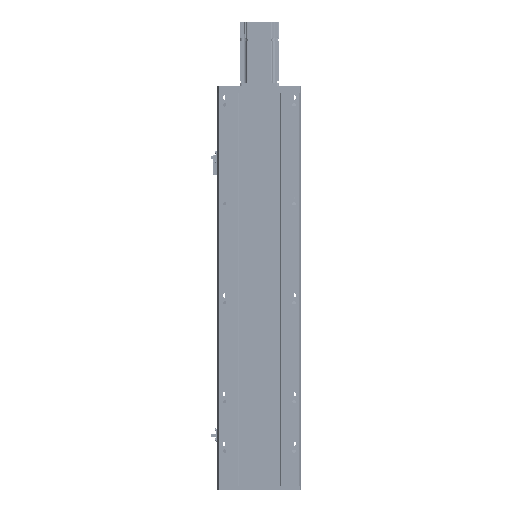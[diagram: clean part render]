
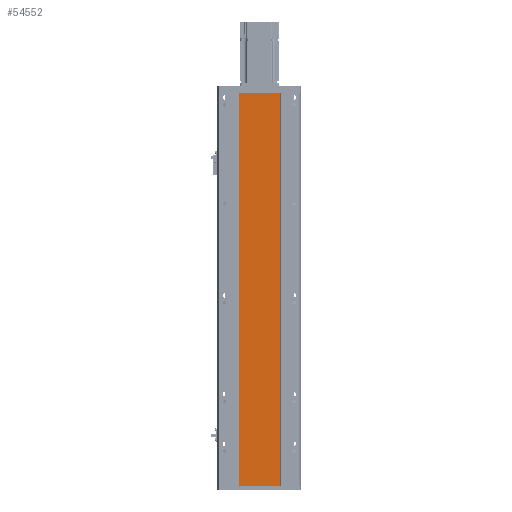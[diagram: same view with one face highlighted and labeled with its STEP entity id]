
A CAD part, front view. The second image highlights one B-rep face of the part: STEP entity #54552.
In plain terms, the highlighted planar face has unit normal (0, -1, 0).
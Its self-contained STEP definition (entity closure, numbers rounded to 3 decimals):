
#1665 = LINE ( 'NONE', #97419, #20460 ) ;
#3028 = DIRECTION ( 'NONE',  ( 1., 0., 0. ) ) ;
#5488 = ORIENTED_EDGE ( 'NONE', *, *, #47162, .F. ) ;
#5731 = EDGE_CURVE ( 'NONE', #73308, #94018, #67285, .T. ) ;
#9496 = DIRECTION ( 'NONE',  ( 0., 0., 1. ) ) ;
#9596 = DIRECTION ( 'NONE',  ( 0., -1., 0. ) ) ;
#12645 = VERTEX_POINT ( 'NONE', #93352 ) ;
#19360 = VECTOR ( 'NONE', #3028, 1000. ) ;
#20460 = VECTOR ( 'NONE', #9496, 1000. ) ;
#28180 = VECTOR ( 'NONE', #58366, 1000. ) ;
#34938 = ORIENTED_EDGE ( 'NONE', *, *, #68222, .T. ) ;
#40770 = LINE ( 'NONE', #98956, #19360 ) ;
#43573 = VECTOR ( 'NONE', #61156, 1000. ) ;
#44117 = CARTESIAN_POINT ( 'NONE',  ( 42., 0., -795. ) ) ;
#47162 = EDGE_CURVE ( 'NONE', #92174, #12645, #1665, .T. ) ;
#49471 = AXIS2_PLACEMENT_3D ( 'NONE', #89466, #9596, #65701 ) ;
#50433 = CARTESIAN_POINT ( 'NONE',  ( -42., 0., 0. ) ) ;
#52569 = ORIENTED_EDGE ( 'NONE', *, *, #96486, .F. ) ;
#54552 = ADVANCED_FACE ( 'NONE', ( #56505 ), #73367, .T. ) ;
#56505 = FACE_OUTER_BOUND ( 'NONE', #74769, .T. ) ;
#58366 = DIRECTION ( 'NONE',  ( 1., 0., 0. ) ) ;
#61156 = DIRECTION ( 'NONE',  ( 0., 0., 1. ) ) ;
#65701 = DIRECTION ( 'NONE',  ( 0., 0., -1. ) ) ;
#67285 = LINE ( 'NONE', #44117, #43573 ) ;
#68222 = EDGE_CURVE ( 'NONE', #92174, #73308, #40770, .T. ) ;
#68304 = LINE ( 'NONE', #50433, #28180 ) ;
#71955 = CARTESIAN_POINT ( 'NONE',  ( 42., 0., -795. ) ) ;
#73308 = VERTEX_POINT ( 'NONE', #71955 ) ;
#73367 = PLANE ( 'NONE',  #49471 ) ;
#74769 = EDGE_LOOP ( 'NONE', ( #52569, #5488, #34938, #86885 ) ) ;
#76204 = CARTESIAN_POINT ( 'NONE',  ( 42., 0., 0. ) ) ;
#86885 = ORIENTED_EDGE ( 'NONE', *, *, #5731, .T. ) ;
#89466 = CARTESIAN_POINT ( 'NONE',  ( -42., 0., -795. ) ) ;
#92174 = VERTEX_POINT ( 'NONE', #97854 ) ;
#93352 = CARTESIAN_POINT ( 'NONE',  ( -42., 0., 0. ) ) ;
#94018 = VERTEX_POINT ( 'NONE', #76204 ) ;
#96486 = EDGE_CURVE ( 'NONE', #12645, #94018, #68304, .T. ) ;
#97419 = CARTESIAN_POINT ( 'NONE',  ( -42., 0., -795. ) ) ;
#97854 = CARTESIAN_POINT ( 'NONE',  ( -42., 0., -795. ) ) ;
#98956 = CARTESIAN_POINT ( 'NONE',  ( -42., 0., -795. ) ) ;
